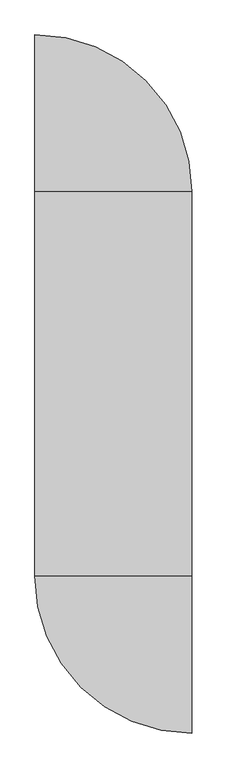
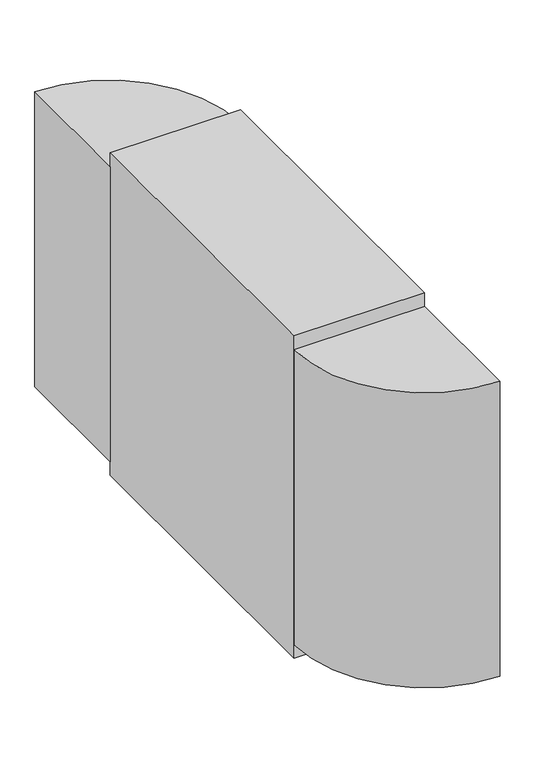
"""IFC4 building model written with IfcOpenShell, lengths in millimetres: proxy geometry, 30100_受変電設備_前後面保守形_高圧引込盤・受電盤 : 高圧受電盤."""

from ifc_helpers import new_model, si_unit, point, frame, frame_2d, origin, origin_with_axes, place, context, project, spatial, polyline, circle_curve, trimmed, segment, composite_curve, outline, extrude, source, transform, mapped, element, save


def electrical_equipment_99b1dd46(model_context):
    return source(origin(), model_context, "Body", "SweptSolid", [
        extrude(outline(composite_curve([segment(polyline([(-450.0, 1100.0), (-450.0, 2000.0)]), True, "CONTINUOUS"), segment(trimmed(circle_curve(frame_2d((-450.0, 1100.0)), 900.0), [point((-450.0, 2000.0))], [point((450.0, 1100.0))], False, "CARTESIAN"), True, "CONTINUOUS"), segment(polyline([(450.0, 1100.0), (-450.0, 1100.0)]), True, "CONTINUOUS")], self_intersect=False)), frame((0.0, 0.0, 100.0), z_axis=(0.0, 0.0, 1.0), x_axis=(1.0, 0.0, 0.0)), (0.0, 0.0, 1.0), 2150.0),
        extrude(outline(composite_curve([segment(polyline([(450.0, -1100.0), (450.0, -2000.0)]), True, "CONTINUOUS"), segment(trimmed(circle_curve(frame_2d((450.0, -1100.0)), 900.0), [point((450.0, -2000.0))], [point((-450.0, -1100.0))], False, "CARTESIAN"), True, "CONTINUOUS"), segment(polyline([(-450.0, -1100.0), (450.0, -1100.0)]), True, "CONTINUOUS")], self_intersect=False)), frame((0.0, 0.0, 100.0), z_axis=(0.0, 0.0, 1.0), x_axis=(1.0, 0.0, 0.0)), (0.0, 0.0, 1.0), 2150.0),
        extrude(outline(polyline([(450.0, -1100.0), (-450.0, -1100.0), (-450.0, 1100.0), (450.0, 1100.0), (450.0, -1100.0)])), origin_with_axes(), (0.0, 0.0, 1.0), 2350.0),
    ])


if __name__ == "__main__":
    model = new_model("IFC4")
    model_context = context("Model", 3, world=origin())
    ifc_project = project(units=[si_unit("LENGTHUNIT", "METRE", prefix="MILLI")], contexts=[model_context])
    site = spatial("IfcSite", under=ifc_project)
    building = spatial("IfcBuilding", under=site)
    placement = place(None, origin())
    electrical_equipment_shape = electrical_equipment_99b1dd46(model_context)
    element("IfcBuildingElementProxy", 1, Name="30100_受変電設備_前後面保守形_高圧引込盤・受電盤 : 高圧受電盤", ObjectType="30100_受変電設備_前後面保守形_高圧引込盤・受電盤 : 高圧受電盤", at=placement, inside=building, context=model_context, shape_type="MappedRepresentation", body=[
        mapped(electrical_equipment_shape, transform((0.0, 0.0, 0.0), x_axis=(1.0, 0.0, 0.0), y_axis=(0.0, 1.0, 0.0), z_axis=(0.0, 0.0, 1.0))),
    ])
    save(model, "model.ifc")
